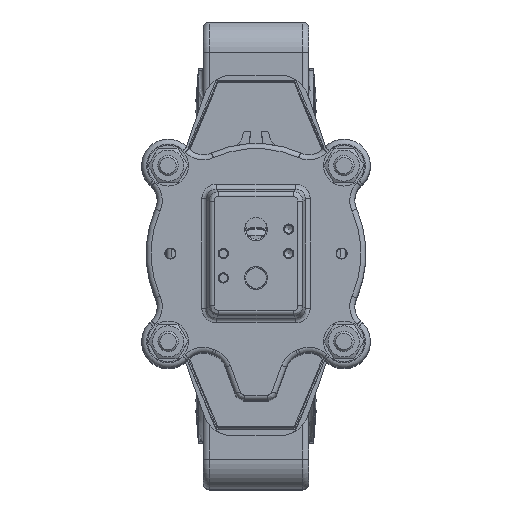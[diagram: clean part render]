
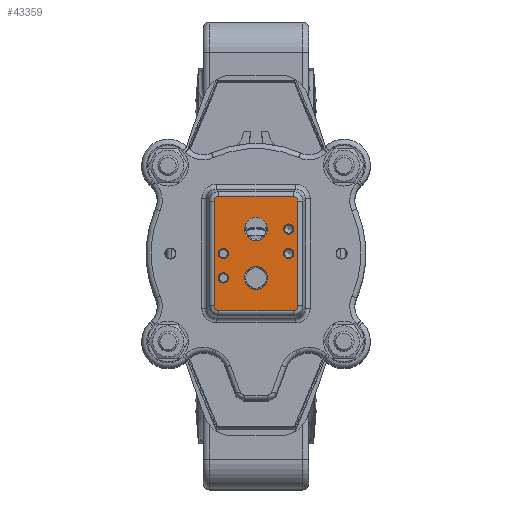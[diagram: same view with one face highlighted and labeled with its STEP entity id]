
A CAD part, top view. The second image highlights one B-rep face of the part: STEP entity #43359.
In plain terms, the highlighted planar face has unit normal (0, 0, 1).
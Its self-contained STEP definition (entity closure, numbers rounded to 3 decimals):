
#140=ELLIPSE('',#48348,2.673,2.5);
#141=ELLIPSE('',#48349,2.673,2.5);
#142=ELLIPSE('',#48350,2.673,2.5);
#143=ELLIPSE('',#48351,2.673,2.5);
#1124=FACE_BOUND('',#13856,.T.);
#1125=FACE_BOUND('',#13857,.T.);
#1126=FACE_BOUND('',#13858,.T.);
#1127=FACE_BOUND('',#13859,.T.);
#1128=FACE_BOUND('',#13860,.T.);
#1129=FACE_BOUND('',#13861,.T.);
#2958=PLANE('',#48347);
#5345=LINE('',#97222,#7838);
#5346=LINE('',#97226,#7839);
#5347=LINE('',#97230,#7840);
#5348=LINE('',#97233,#7841);
#7838=VECTOR('',#60584,10.);
#7839=VECTOR('',#60587,10.);
#7840=VECTOR('',#60590,10.);
#7841=VECTOR('',#60593,10.);
#10997=FACE_OUTER_BOUND('',#13855,.T.);
#13855=EDGE_LOOP('',(#39091,#39092,#39093,#39094,#39095,#39096,#39097,#39098));
#13856=EDGE_LOOP('',(#39099,#39100));
#13857=EDGE_LOOP('',(#39101,#39102));
#13858=EDGE_LOOP('',(#39103));
#13859=EDGE_LOOP('',(#39104));
#13860=EDGE_LOOP('',(#39105));
#13861=EDGE_LOOP('',(#39106));
#16625=CIRCLE('',#48218,5.723);
#16626=CIRCLE('',#48219,5.723);
#16628=CIRCLE('',#48222,5.723);
#16629=CIRCLE('',#48223,5.723);
#16719=CIRCLE('',#48346,2.5);
#16720=CIRCLE('',#48352,2.5);
#16721=CIRCLE('',#48353,2.5);
#16722=CIRCLE('',#48354,2.5);
#20639=VERTEX_POINT('',#96529);
#20640=VERTEX_POINT('',#96531);
#20641=VERTEX_POINT('',#96536);
#20642=VERTEX_POINT('',#96538);
#20742=VERTEX_POINT('',#97214);
#20743=VERTEX_POINT('',#97218);
#20744=VERTEX_POINT('',#97219);
#20745=VERTEX_POINT('',#97221);
#20746=VERTEX_POINT('',#97223);
#20747=VERTEX_POINT('',#97225);
#20748=VERTEX_POINT('',#97227);
#20749=VERTEX_POINT('',#97229);
#20750=VERTEX_POINT('',#97231);
#20751=VERTEX_POINT('',#97234);
#20752=VERTEX_POINT('',#97236);
#20753=VERTEX_POINT('',#97238);
#26787=EDGE_CURVE('',#20640,#20639,#16625,.T.);
#26788=EDGE_CURVE('',#20639,#20640,#16626,.T.);
#26791=EDGE_CURVE('',#20642,#20641,#16628,.T.);
#26792=EDGE_CURVE('',#20641,#20642,#16629,.T.);
#26927=EDGE_CURVE('',#20742,#20742,#16719,.T.);
#26928=EDGE_CURVE('',#20743,#20744,#140,.T.);
#26929=EDGE_CURVE('',#20745,#20743,#5345,.T.);
#26930=EDGE_CURVE('',#20746,#20745,#141,.T.);
#26931=EDGE_CURVE('',#20747,#20746,#5346,.T.);
#26932=EDGE_CURVE('',#20748,#20747,#142,.T.);
#26933=EDGE_CURVE('',#20749,#20748,#5347,.T.);
#26934=EDGE_CURVE('',#20750,#20749,#143,.T.);
#26935=EDGE_CURVE('',#20744,#20750,#5348,.T.);
#26936=EDGE_CURVE('',#20751,#20751,#16720,.T.);
#26937=EDGE_CURVE('',#20752,#20752,#16721,.T.);
#26938=EDGE_CURVE('',#20753,#20753,#16722,.T.);
#39091=ORIENTED_EDGE('',*,*,#26928,.F.);
#39092=ORIENTED_EDGE('',*,*,#26929,.F.);
#39093=ORIENTED_EDGE('',*,*,#26930,.F.);
#39094=ORIENTED_EDGE('',*,*,#26931,.F.);
#39095=ORIENTED_EDGE('',*,*,#26932,.F.);
#39096=ORIENTED_EDGE('',*,*,#26933,.F.);
#39097=ORIENTED_EDGE('',*,*,#26934,.F.);
#39098=ORIENTED_EDGE('',*,*,#26935,.F.);
#39099=ORIENTED_EDGE('',*,*,#26787,.T.);
#39100=ORIENTED_EDGE('',*,*,#26788,.T.);
#39101=ORIENTED_EDGE('',*,*,#26791,.T.);
#39102=ORIENTED_EDGE('',*,*,#26792,.T.);
#39103=ORIENTED_EDGE('',*,*,#26936,.F.);
#39104=ORIENTED_EDGE('',*,*,#26937,.F.);
#39105=ORIENTED_EDGE('',*,*,#26938,.F.);
#39106=ORIENTED_EDGE('',*,*,#26927,.F.);
#43359=ADVANCED_FACE('',(#10997,#1124,#1125,#1126,#1127,#1128,#1129),#2958,
 .F.);
#48218=AXIS2_PLACEMENT_3D('',#96532,#60294,#60295);
#48219=AXIS2_PLACEMENT_3D('',#96533,#60296,#60297);
#48222=AXIS2_PLACEMENT_3D('',#96539,#60303,#60304);
#48223=AXIS2_PLACEMENT_3D('',#96540,#60305,#60306);
#48346=AXIS2_PLACEMENT_3D('',#97216,#60578,#60579);
#48347=AXIS2_PLACEMENT_3D('',#97217,#60580,#60581);
#48348=AXIS2_PLACEMENT_3D('',#97220,#60582,#60583);
#48349=AXIS2_PLACEMENT_3D('',#97224,#60585,#60586);
#48350=AXIS2_PLACEMENT_3D('',#97228,#60588,#60589);
#48351=AXIS2_PLACEMENT_3D('',#97232,#60591,#60592);
#48352=AXIS2_PLACEMENT_3D('',#97235,#60594,#60595);
#48353=AXIS2_PLACEMENT_3D('',#97237,#60596,#60597);
#48354=AXIS2_PLACEMENT_3D('',#97239,#60598,#60599);
#60294=DIRECTION('center_axis',(0.,0.,
-1.));
#60295=DIRECTION('ref_axis',(0.,-1.,0.));
#60296=DIRECTION('center_axis',(0.,0.,
-1.));
#60297=DIRECTION('ref_axis',(0.,-1.,0.));
#60303=DIRECTION('center_axis',(0.,0.,
-1.));
#60304=DIRECTION('ref_axis',(0.,-1.,0.));
#60305=DIRECTION('center_axis',(0.,0.,
-1.));
#60306=DIRECTION('ref_axis',(0.,-1.,0.));
#60578=DIRECTION('center_axis',(0.,0.,
1.));
#60579=DIRECTION('ref_axis',(0.,1.,0.));
#60580=DIRECTION('center_axis',(0.,0.,
-1.));
#60581=DIRECTION('ref_axis',(0.,1.,0.));
#60582=DIRECTION('center_axis',(0.,0.,
-1.));
#60583=DIRECTION('ref_axis',(-0.707,0.707,0.));
#60584=DIRECTION('',(0.,1.,0.));
#60585=DIRECTION('center_axis',(0.,0.,
-1.));
#60586=DIRECTION('ref_axis',(-0.707,-0.707,0.));
#60587=DIRECTION('',(-1.,0.,0.));
#60588=DIRECTION('center_axis',(0.,0.,
-1.));
#60589=DIRECTION('ref_axis',(0.707,-0.707,0.));
#60590=DIRECTION('',(0.,-1.,0.));
#60591=DIRECTION('center_axis',(0.,0.,
-1.));
#60592=DIRECTION('ref_axis',(0.707,0.707,0.));
#60593=DIRECTION('',(1.,0.,0.));
#60594=DIRECTION('center_axis',(0.,0.,
1.));
#60595=DIRECTION('ref_axis',(0.,1.,0.));
#60596=DIRECTION('center_axis',(0.,0.,
1.));
#60597=DIRECTION('ref_axis',(0.,1.,0.));
#60598=DIRECTION('center_axis',(0.,0.,
1.));
#60599=DIRECTION('ref_axis',(0.,1.,0.));
#96529=CARTESIAN_POINT('',(0.,17.722,693.));
#96531=CARTESIAN_POINT('',(0.,6.277,693.));
#96532=CARTESIAN_POINT('Origin',(0.,12.,
693.));
#96533=CARTESIAN_POINT('Origin',(0.,12.,
693.));
#96536=CARTESIAN_POINT('',(0.,-6.278,693.));
#96538=CARTESIAN_POINT('',(0.,-17.723,693.));
#96539=CARTESIAN_POINT('Origin',(0.,-12.,
693.));
#96540=CARTESIAN_POINT('Origin',(0.,-12.,
693.));
#97214=CARTESIAN_POINT('',(16.,9.5,693.));
#97216=CARTESIAN_POINT('Origin',(16.,12.,693.));
#97217=CARTESIAN_POINT('Origin',(0.,0.,
693.));
#97218=CARTESIAN_POINT('',(-20.582,25.667,693.));
#97219=CARTESIAN_POINT('',(-18.167,28.082,693.));
#97220=CARTESIAN_POINT('Origin',(-17.993,25.493,693.));
#97221=CARTESIAN_POINT('',(-20.582,-25.667,693.));
#97222=CARTESIAN_POINT('',(-20.582,15.,693.));
#97223=CARTESIAN_POINT('',(-18.167,-28.082,693.));
#97224=CARTESIAN_POINT('Origin',(-17.993,-25.493,693.));
#97225=CARTESIAN_POINT('',(18.167,-28.082,693.));
#97226=CARTESIAN_POINT('',(-11.25,-28.082,693.));
#97227=CARTESIAN_POINT('',(20.582,-25.667,693.));
#97228=CARTESIAN_POINT('Origin',(17.993,-25.493,693.));
#97229=CARTESIAN_POINT('',(20.582,25.667,693.));
#97230=CARTESIAN_POINT('',(20.582,-15.,693.));
#97231=CARTESIAN_POINT('',(18.167,28.082,693.));
#97232=CARTESIAN_POINT('Origin',(17.993,25.493,693.));
#97233=CARTESIAN_POINT('',(11.25,28.082,693.));
#97234=CARTESIAN_POINT('',(16.,-2.5,693.));
#97235=CARTESIAN_POINT('Origin',(16.,0.,
693.));
#97236=CARTESIAN_POINT('',(-16.,-14.5,693.));
#97237=CARTESIAN_POINT('Origin',(-16.,-12.,693.));
#97238=CARTESIAN_POINT('',(-16.,-2.5,693.));
#97239=CARTESIAN_POINT('Origin',(-16.,0.,
693.));
